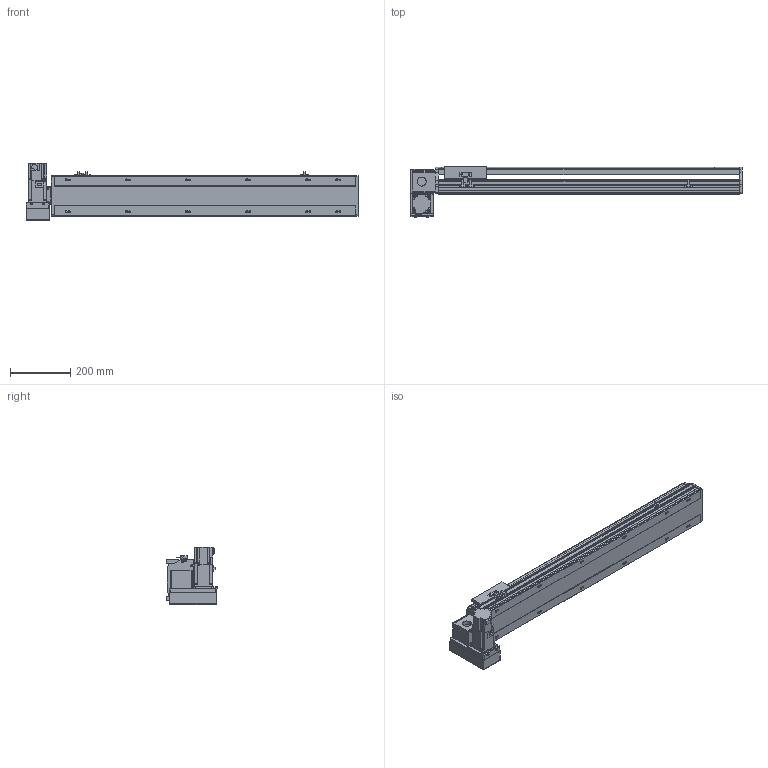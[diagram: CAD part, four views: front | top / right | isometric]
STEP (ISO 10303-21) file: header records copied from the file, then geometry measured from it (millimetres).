
FILE_DESCRIPTION( ( 'STEP AP214' ), '1' );
FILE_NAME( 'x:/temp/worker_6/temp/exporttempdir_5396_93_dG4Z5/format_0/PBS140S-P40-S750-LD-T40-C1-N(0).stp', '2022-06-09T00:24:30', ( 'License CC BY-ND 4.0' ), ( 'CADENAS' ), ' ', 'PARTsolutions', ' ' );
FILE_SCHEMA( ( 'AUTOMOTIVE_DESIGN { 1 0 10303 214 1 1 1 1 }' ) );
Length unit declared in the file: millimetre
Products named in the file (7): PBS140S-P40-S750-LD-T40-C1-N(0); _PBS140S-S750()_body; _PBS140ST-LD_motors; _T40-p1; _PBS140S_sliser; _PBS140S_plant; _PBS140S_sensor
Assembly tree (8 placements, depth 2):
  PBS140S-P40-S750-LD-T40-C1-N(0)
    _PBS140S-S750()_body
    _PBS140ST-LD_motors
    _T40-p1
    _PBS140S_sliser
    _PBS140S_plant
    _PBS140S_sensor  x3
Bounding box: 1104 x 172.5 x 189.7 mm (x, y, z)
Volume: 5900493.3 mm3; surface area: 1033026.2 mm2
Topology: 8 solids, 8 shells, 1067 faces, 2831 edges, 1853 vertices
Faces by surface type: plane 690, cylinder 329, cone 38, sphere 8, torus 2
Full cylindrical faces by diameter (mm): 3.242 x4, 4 x2, 4.134 x4, 4.4 x8, 4.5 x2, 4.8 x4, 4.917 x20, 5.5 x7, 6 x2, 7 x14, 7.5 x8, 8 x12, 8.5 x4, 10.5 x12, 14 x1, 30 x2, 50 x2
Entity records: 39052 total; most frequent: CARTESIAN_POINT 6070, DIRECTION 5208, ORIENTED_EDGE 4942, EDGE_CURVE 2471, AXIS2_PLACEMENT_3D 1799, VERTEX_POINT 1705, LINE 1610, VECTOR 1610
